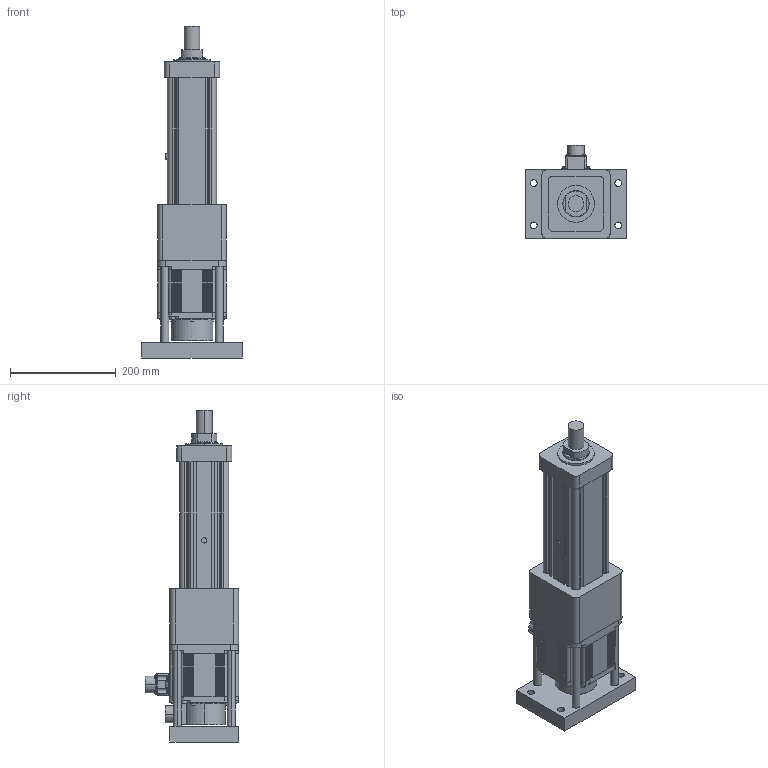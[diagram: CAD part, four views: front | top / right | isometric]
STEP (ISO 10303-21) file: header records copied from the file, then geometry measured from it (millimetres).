
FILE_DESCRIPTION (( 'STEP AP203' ), '1' );
FILE_NAME ('S4眻盄綴楊擘假蚾.STEP', '2024-05-27T05:28:49', ( '' ), ( '' ), 'SwSTEP 2.0', 'SolidWorks 2018', '' );
FILE_SCHEMA (( 'CONFIG_CONTROL_DESIGN' ));
Length unit declared in the file: millimetre
Products named in the file (3): S4眻盄綴楊擘; S4眻盄綴楊擘假蚾; ECMA-FX1308ES-130框號系列機種-0.85KW高慣量系列
Assembly tree (2 placements, depth 2):
  S4眻盄綴楊擘假蚾
    S4眻盄綴楊擘
    ECMA-FX1308ES-130框號系列機種-0.85KW高慣量系列
Bounding box: 190 x 176.44 x 629 mm (x, y, z)
Volume: 5592234.5 mm3; surface area: 618635.8 mm2
Topology: 3 solids, 15 shells, 943 faces, 2256 edges, 1402 vertices
Faces by surface type: plane 409, cylinder 365, cone 101, torus 47, sphere 20, bspline 1
Entity records: 28252 total; most frequent: CARTESIAN_POINT 5462, DIRECTION 4978, ORIENTED_EDGE 4508, EDGE_CURVE 2254, AXIS2_PLACEMENT_3D 1857, VERTEX_POINT 1402, VECTOR 1264, LINE 1264
